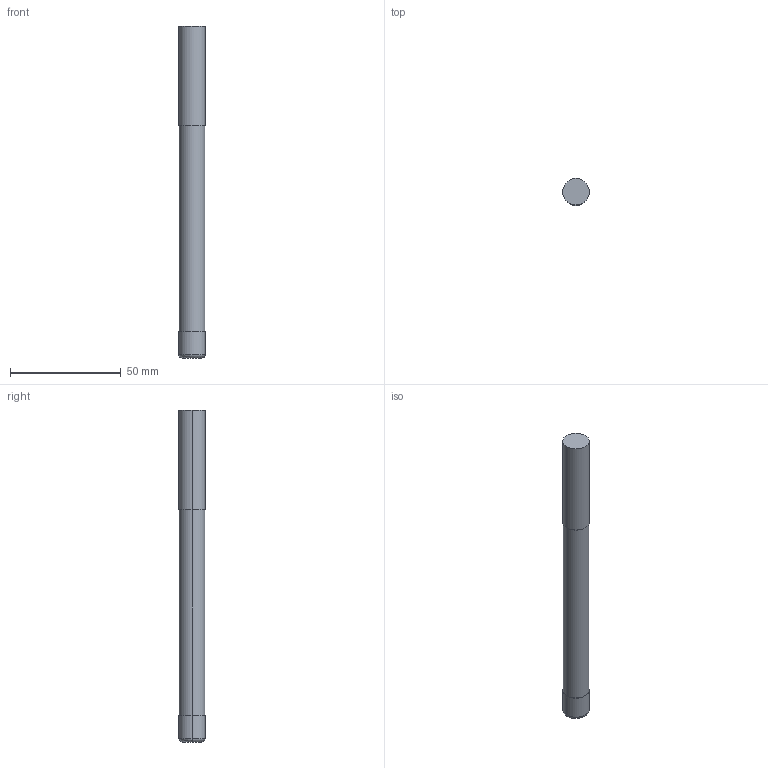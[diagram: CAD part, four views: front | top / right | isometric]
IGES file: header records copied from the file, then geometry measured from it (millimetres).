
Start section: 3D InterOp IGES (v. 2020 1.0.1), Spatial Corp. Copyright (c) 1999-2017.
Global section: file name: WZF17428_12_1.5.igs; native system: Spatial Corp.; preprocessor: 3D InterOp GENERIC/IGES 3.0; author: Noname; organization: Noname; date: 20201007.092734; units: metre
Bounding box: 12 x 12 x 150 mm (x, y, z)
Surface area: 5728.2 mm2 (no closed solid volume)
Topology: 0 solids, 0 shells, 12 faces, 44 edges, 44 vertices
Faces by surface type: revolution 8, extrusion 4
